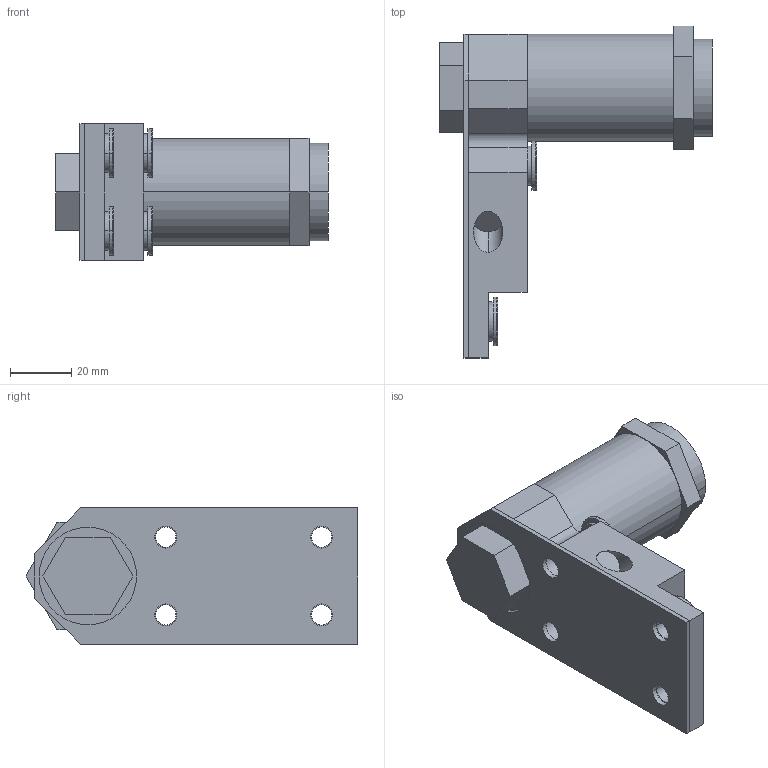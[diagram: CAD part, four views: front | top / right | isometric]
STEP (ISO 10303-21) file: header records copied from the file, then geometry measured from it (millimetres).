
FILE_DESCRIPTION((''),'2;1');
FILE_NAME('UMR3_ASM','2017-08-24T',('jennifer.elliott'),('CenterLine (Windsor) Ltd - Automation Components Division'),'PRO/ENGINEER BY PARAMETRIC TECHNOLOGY CORPORATION, 2015030','PRO/ENGINEER BY PARAMETRIC TECHNOLOGY CORPORATION, 2015030','');
FILE_SCHEMA(('AUTOMOTIVE_DESIGN { 1 0 10303 214 1 1 1 1 }'));
Length unit declared in the file: inch
Products named in the file (28): PRT0792; PRT0793; PRT0794; PRT0795; PRT0796; PRT0797; PRT0798; PRT0799; PRT0800; PRT0801; PRT0802; PRT0803; PRT0804; PRT0805; PRT0806; PRT0807; PRT0808; PRT0809; PRT0810; PRT0811; PRT0812; PRT0813; PRT0814; PRT0815; PRT0816; PRT0817; PRT0818; UMR3_ASM
Assembly tree (27 placements, depth 2):
  UMR3_ASM
    PRT0792
    PRT0793
    PRT0794
    PRT0795
    PRT0796
    PRT0797
    PRT0798
    PRT0799
    PRT0800
    PRT0801
    PRT0802
    PRT0803
    PRT0804
    PRT0805
    PRT0806
    PRT0807
    PRT0808
    PRT0809
    PRT0810
    PRT0811
    PRT0812
    PRT0813
    PRT0814
    PRT0815
    PRT0816
    PRT0817
    PRT0818
Bounding box: 89.03 x 108.24 x 44.45 mm (x, y, z)
Volume: 133004.8 mm3; surface area: 41777.1 mm2
Topology: 14 solids, 14 shells, 157 faces, 348 edges, 225 vertices
Faces by surface type: cylinder 71, plane 66, torus 16, cone 4
Entity records: 5788 total; most frequent: DIRECTION 939, CARTESIAN_POINT 915, ORIENTED_EDGE 696, AXIS2_PLACEMENT_3D 385, EDGE_CURVE 348, VERTEX_POINT 225, EDGE_LOOP 199, CIRCLE 173
